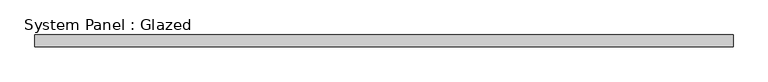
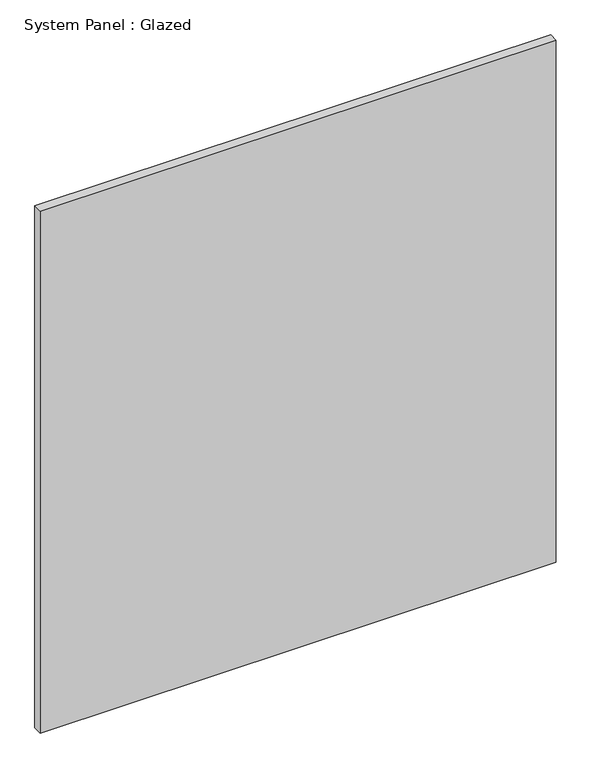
"""IFC4 building model written with IfcOpenShell, lengths in millimetres: plate geometry, System Panel : Glazed."""

from ifc_helpers import new_model, si_unit, origin, origin_with_axes, place, context, project, spatial, polyline, outline, extrude, source, transform, mapped, element, save


def system_panel_glazed_4915e1a0(model_context):
    return source(origin(), model_context, "Body", "SweptSolid", [
        extrude(outline(polyline([(725.0, 24.5), (-725.0, 24.5), (-725.0, 49.5), (725.0, 49.5), (725.0, 24.5)])), origin_with_axes(), (0.0, 0.0, 1.0), 1550.0),
    ])


if __name__ == "__main__":
    model = new_model("IFC4")
    model_context = context("Model", 3, world=origin())
    ifc_project = project(units=[si_unit("LENGTHUNIT", "METRE", prefix="MILLI")], contexts=[model_context])
    site = spatial("IfcSite", under=ifc_project)
    building = spatial("IfcBuilding", under=site)
    placement = place(None, origin())
    system_panel_glazed_shape = system_panel_glazed_4915e1a0(model_context)
    element("IfcPlate", 1, ObjectType="System Panel : Glazed", at=placement, inside=building, context=model_context, shape_type="MappedRepresentation", body=[
        mapped(system_panel_glazed_shape, transform((0.0, 0.0, 0.0), x_axis=(1.0, 0.0, 0.0), y_axis=(0.0, 1.0, 0.0), z_axis=(0.0, 0.0, 1.0))),
    ])
    save(model, "model.ifc")
